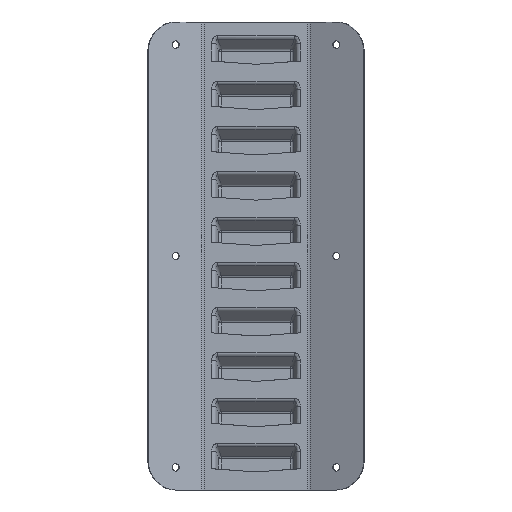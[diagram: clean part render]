
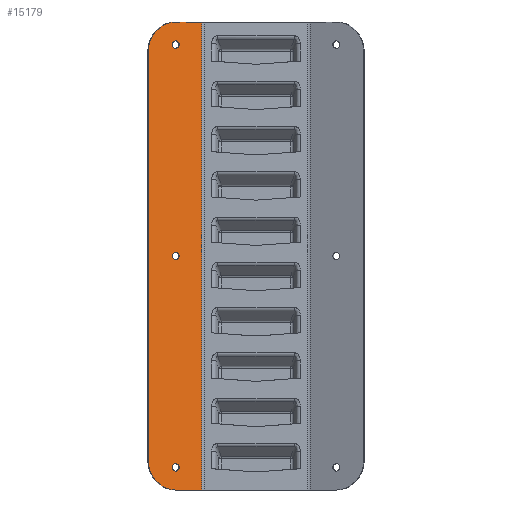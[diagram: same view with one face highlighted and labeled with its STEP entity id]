
A CAD part, front view. The second image highlights one B-rep face of the part: STEP entity #15179.
In plain terms, the highlighted planar face has unit normal (0.423, -0.906, 0).
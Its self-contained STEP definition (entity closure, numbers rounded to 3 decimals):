
#8166=CARTESIAN_POINT('Vertex',(-36.082,-1.375,-310.)) ;
#8173=CARTESIAN_POINT('Vertex',(-36.082,-1.375,0.)) ;
#8176=CARTESIAN_POINT('Line Origine',(-36.082,-1.375,-166.5)) ;
#14791=CARTESIAN_POINT('Vertex',(-55.469,-10.415,-15.)) ;
#14807=CARTESIAN_POINT('Vertex',(-50.938,-8.302,-15.)) ;
#14810=CARTESIAN_POINT('Axis2P3D Location',(-53.204,-9.359,-15.)) ;
#14827=CARTESIAN_POINT('Axis2P3D Location',(-53.204,-9.359,-15.)) ;
#14848=CARTESIAN_POINT('Vertex',(-55.469,-10.415,-295.)) ;
#14864=CARTESIAN_POINT('Vertex',(-50.938,-8.302,-295.)) ;
#14867=CARTESIAN_POINT('Axis2P3D Location',(-53.204,-9.359,-295.)) ;
#14884=CARTESIAN_POINT('Axis2P3D Location',(-53.204,-9.359,-295.)) ;
#14905=CARTESIAN_POINT('Vertex',(-55.469,-10.415,-155.)) ;
#14921=CARTESIAN_POINT('Vertex',(-50.938,-8.302,-155.)) ;
#14924=CARTESIAN_POINT('Axis2P3D Location',(-53.204,-9.359,-155.)) ;
#14941=CARTESIAN_POINT('Axis2P3D Location',(-53.204,-9.359,-155.)) ;
#14998=CARTESIAN_POINT('Line Origine',(-44.643,-5.367,0.)) ;
#15002=CARTESIAN_POINT('Vertex',(-53.204,-9.359,0.)) ;
#15047=CARTESIAN_POINT('Axis2P3D Location',(-53.204,-9.359,-20.)) ;
#15051=CARTESIAN_POINT('Vertex',(-71.33,-17.811,-20.)) ;
#15123=CARTESIAN_POINT('Line Origine',(-71.33,-17.811,-155.)) ;
#15127=CARTESIAN_POINT('Vertex',(-71.33,-17.811,-290.)) ;
#15142=CARTESIAN_POINT('Axis2P3D Location',(-71.33,-17.811,0.)) ;
#15147=CARTESIAN_POINT('Line Origine',(-44.643,-5.367,-310.)) ;
#15151=CARTESIAN_POINT('Vertex',(-53.204,-9.359,-310.)) ;
#15154=CARTESIAN_POINT('Axis2P3D Location',(-53.204,-9.359,-290.)) ;
#8177=DIRECTION('Vector Direction',(0.,0.,1.)) ;
#14811=DIRECTION('Axis2P3D Direction',(0.423,-0.906,0.)) ;
#14828=DIRECTION('Axis2P3D Direction',(0.423,-0.906,0.)) ;
#14868=DIRECTION('Axis2P3D Direction',(0.423,-0.906,0.)) ;
#14885=DIRECTION('Axis2P3D Direction',(0.423,-0.906,0.)) ;
#14925=DIRECTION('Axis2P3D Direction',(0.423,-0.906,0.)) ;
#14942=DIRECTION('Axis2P3D Direction',(0.423,-0.906,0.)) ;
#14999=DIRECTION('Vector Direction',(0.906,0.423,0.)) ;
#15048=DIRECTION('Axis2P3D Direction',(0.423,-0.906,0.)) ;
#15124=DIRECTION('Vector Direction',(0.,0.,1.)) ;
#15143=DIRECTION('Axis2P3D Direction',(0.423,-0.906,0.)) ;
#15144=DIRECTION('Axis2P3D XDirection',(0.906,0.423,0.)) ;
#15148=DIRECTION('Vector Direction',(0.906,0.423,0.)) ;
#15155=DIRECTION('Axis2P3D Direction',(0.423,-0.906,0.)) ;
#14812=AXIS2_PLACEMENT_3D('Circle Axis2P3D',#14810,#14811,$) ;
#14829=AXIS2_PLACEMENT_3D('Circle Axis2P3D',#14827,#14828,$) ;
#14869=AXIS2_PLACEMENT_3D('Circle Axis2P3D',#14867,#14868,$) ;
#14886=AXIS2_PLACEMENT_3D('Circle Axis2P3D',#14884,#14885,$) ;
#14926=AXIS2_PLACEMENT_3D('Circle Axis2P3D',#14924,#14925,$) ;
#14943=AXIS2_PLACEMENT_3D('Circle Axis2P3D',#14941,#14942,$) ;
#15049=AXIS2_PLACEMENT_3D('Circle Axis2P3D',#15047,#15048,$) ;
#15145=AXIS2_PLACEMENT_3D('Plane Axis2P3D',#15142,#15143,#15144) ;
#15156=AXIS2_PLACEMENT_3D('Circle Axis2P3D',#15154,#15155,$) ;
#15160=ORIENTED_EDGE('',*,*,#15153,.T.) ;
#15161=ORIENTED_EDGE('',*,*,#8180,.T.) ;
#15162=ORIENTED_EDGE('',*,*,#15004,.F.) ;
#15163=ORIENTED_EDGE('',*,*,#15053,.F.) ;
#15164=ORIENTED_EDGE('',*,*,#15129,.F.) ;
#15165=ORIENTED_EDGE('',*,*,#15158,.F.) ;
#15168=ORIENTED_EDGE('',*,*,#14814,.F.) ;
#15169=ORIENTED_EDGE('',*,*,#14831,.F.) ;
#15172=ORIENTED_EDGE('',*,*,#14871,.F.) ;
#15173=ORIENTED_EDGE('',*,*,#14888,.F.) ;
#15176=ORIENTED_EDGE('',*,*,#14928,.F.) ;
#15177=ORIENTED_EDGE('',*,*,#14945,.F.) ;
#15170=FACE_BOUND('',#15167,.T.) ;
#15174=FACE_BOUND('',#15171,.T.) ;
#15178=FACE_BOUND('',#15175,.T.) ;
#8178=VECTOR('Line Direction',#8177,1.) ;
#15000=VECTOR('Line Direction',#14999,1.) ;
#15125=VECTOR('Line Direction',#15124,1.) ;
#15149=VECTOR('Line Direction',#15148,1.) ;
#15179=ADVANCED_FACE('\X2\51E04F554F53\X0\.4',(#15166,#15170,#15174,#15178),#15146,.T.) ;
#14813=CIRCLE('generated circle',#14812,2.5) ;
#14830=CIRCLE('generated circle',#14829,2.5) ;
#14870=CIRCLE('generated circle',#14869,2.5) ;
#14887=CIRCLE('generated circle',#14886,2.5) ;
#14927=CIRCLE('generated circle',#14926,2.5) ;
#14944=CIRCLE('generated circle',#14943,2.5) ;
#15050=CIRCLE('generated circle',#15049,20.) ;
#15157=CIRCLE('generated circle',#15156,20.) ;
#8180=EDGE_CURVE('',#8167,#8174,#8179,.T.) ;
#14814=EDGE_CURVE('',#14808,#14792,#14813,.T.) ;
#14831=EDGE_CURVE('',#14792,#14808,#14830,.T.) ;
#14871=EDGE_CURVE('',#14865,#14849,#14870,.T.) ;
#14888=EDGE_CURVE('',#14849,#14865,#14887,.T.) ;
#14928=EDGE_CURVE('',#14922,#14906,#14927,.T.) ;
#14945=EDGE_CURVE('',#14906,#14922,#14944,.T.) ;
#15004=EDGE_CURVE('',#15003,#8174,#15001,.T.) ;
#15053=EDGE_CURVE('',#15052,#15003,#15050,.F.) ;
#15129=EDGE_CURVE('',#15128,#15052,#15126,.T.) ;
#15153=EDGE_CURVE('',#15152,#8167,#15150,.T.) ;
#15158=EDGE_CURVE('',#15152,#15128,#15157,.F.) ;
#15159=EDGE_LOOP('',(#15160,#15161,#15162,#15163,#15164,#15165)) ;
#15167=EDGE_LOOP('',(#15168,#15169)) ;
#15171=EDGE_LOOP('',(#15172,#15173)) ;
#15175=EDGE_LOOP('',(#15176,#15177)) ;
#15166=FACE_OUTER_BOUND('',#15159,.T.) ;
#8179=LINE('Line',#8176,#8178) ;
#15001=LINE('Line',#14998,#15000) ;
#15126=LINE('Line',#15123,#15125) ;
#15150=LINE('Line',#15147,#15149) ;
#15146=PLANE('',#15145) ;
#8167=VERTEX_POINT('',#8166) ;
#8174=VERTEX_POINT('',#8173) ;
#14792=VERTEX_POINT('',#14791) ;
#14808=VERTEX_POINT('',#14807) ;
#14849=VERTEX_POINT('',#14848) ;
#14865=VERTEX_POINT('',#14864) ;
#14906=VERTEX_POINT('',#14905) ;
#14922=VERTEX_POINT('',#14921) ;
#15003=VERTEX_POINT('',#15002) ;
#15052=VERTEX_POINT('',#15051) ;
#15128=VERTEX_POINT('',#15127) ;
#15152=VERTEX_POINT('',#15151) ;
